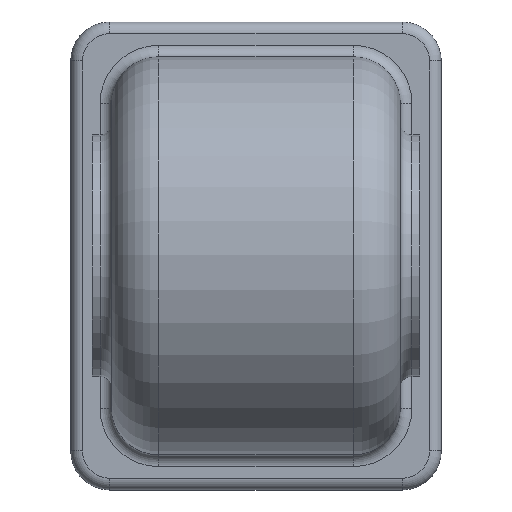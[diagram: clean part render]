
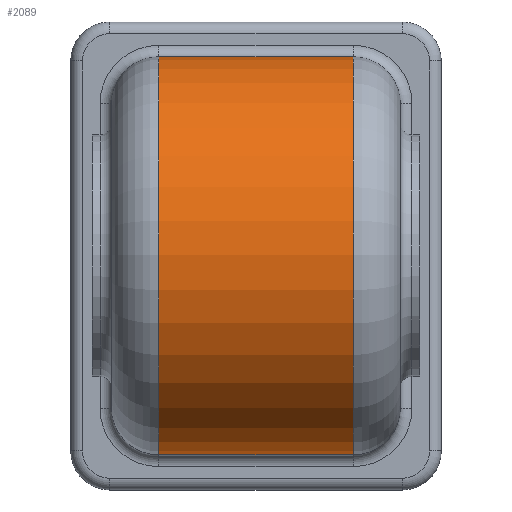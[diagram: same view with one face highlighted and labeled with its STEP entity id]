
A CAD part, top view. The second image highlights one B-rep face of the part: STEP entity #2089.
In plain terms, the highlighted cylindrical face has radius 51 mm (diameter 102 mm), a partial arc.
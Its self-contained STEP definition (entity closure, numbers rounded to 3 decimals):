
#1084=CARTESIAN_POINT('',(-25.0,51.0,50.));
#1085=VERTEX_POINT('',#1084);
#1108=CARTESIAN_POINT('',(-25.0,-51.0,50.));
#1109=VERTEX_POINT('',#1108);
#1133=CARTESIAN_POINT('',(25.0,-51.0,50.));
#1134=VERTEX_POINT('',#1133);
#1141=CARTESIAN_POINT('',(-25.0,-51.0,50.));
#1142=DIRECTION('',(1.0,0.0,0.0));
#1143=VECTOR('',#1142,50.0);
#1144=LINE('',#1141,#1143);
#1145=EDGE_CURVE('',#1109,#1134,#1144,.T.);
#2038=CARTESIAN_POINT('',(-25.0,0.0,50.0));
#2039=DIRECTION('',(-1.0,0.0,0.0));
#2040=DIRECTION('',(0.0,0.0,1.0));
#2041=AXIS2_PLACEMENT_3D('',#2038,#2039,#2040);
#2042=CIRCLE('',#2041,51.);
#2043=EDGE_CURVE('',#1109,#1085,#2042,.T.);
#2055=CARTESIAN_POINT('',(25.0,51.0,50.));
#2056=VERTEX_POINT('',#2055);
#2057=CARTESIAN_POINT('',(-25.0,51.0,50.));
#2058=DIRECTION('',(1.0,0.0,0.0));
#2059=VECTOR('',#2058,50.0);
#2060=LINE('',#2057,#2059);
#2061=EDGE_CURVE('',#1085,#2056,#2060,.T.);
#2072=CARTESIAN_POINT('',(0.0,0.0,50.0));
#2073=DIRECTION('',(1.0,0.0,0.0));
#2074=DIRECTION('',(0.0,1.0,0.0));
#2075=AXIS2_PLACEMENT_3D('',#2072,#2073,#2074);
#2076=CYLINDRICAL_SURFACE('',#2075,51.);
#2077=ORIENTED_EDGE('',*,*,#2043,.F.);
#2078=ORIENTED_EDGE('',*,*,#1145,.T.);
#2079=CARTESIAN_POINT('',(25.0,0.0,50.0));
#2080=DIRECTION('',(1.0,0.0,0.0));
#2081=DIRECTION('',(0.0,0.0,1.0));
#2082=AXIS2_PLACEMENT_3D('',#2079,#2080,#2081);
#2083=CIRCLE('',#2082,51.);
#2084=EDGE_CURVE('',#2056,#1134,#2083,.T.);
#2085=ORIENTED_EDGE('',*,*,#2084,.F.);
#2086=ORIENTED_EDGE('',*,*,#2061,.F.);
#2087=EDGE_LOOP('',(#2077,#2078,#2085,#2086));
#2088=FACE_OUTER_BOUND('',#2087,.T.);
#2089=ADVANCED_FACE('',(#2088),#2076,.T.);
